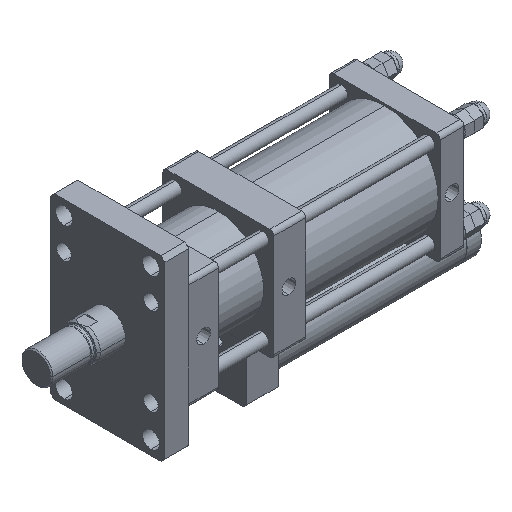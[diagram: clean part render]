
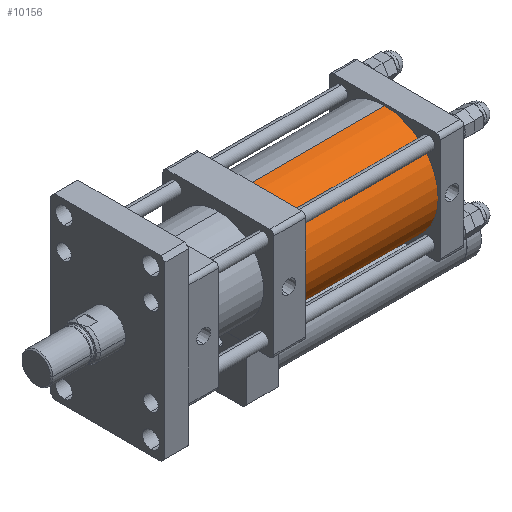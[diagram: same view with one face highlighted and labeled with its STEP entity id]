
A CAD part, isometric view. The second image highlights one B-rep face of the part: STEP entity #10156.
In plain terms, the highlighted cylindrical face has radius 67.5 mm (diameter 135 mm), a partial arc.
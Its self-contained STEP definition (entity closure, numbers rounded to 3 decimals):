
#452 = CYLINDRICAL_SURFACE ( 'NONE', #9374, 67.5 ) ;
#463 = VECTOR ( 'NONE', #6198, 1000. ) ;
#786 = CARTESIAN_POINT ( 'NONE',  ( 440., 0., 67.5 ) ) ;
#1277 = DIRECTION ( 'NONE',  ( 1., 0., 0. ) ) ;
#1511 = VECTOR ( 'NONE', #8650, 1000. ) ;
#1571 = ORIENTED_EDGE ( 'NONE', *, *, #2304, .T. ) ;
#2241 = VERTEX_POINT ( 'NONE', #10522 ) ;
#2289 = CARTESIAN_POINT ( 'NONE',  ( 440., 0., -67.5 ) ) ;
#2304 = EDGE_CURVE ( 'NONE', #2241, #2496, #6752, .T. ) ;
#2496 = VERTEX_POINT ( 'NONE', #4125 ) ;
#3341 = ORIENTED_EDGE ( 'NONE', *, *, #9143, .F. ) ;
#3656 = CARTESIAN_POINT ( 'NONE',  ( 440., 0., -67.5 ) ) ;
#4125 = CARTESIAN_POINT ( 'NONE',  ( 270., 0., 67.5 ) ) ;
#4167 = DIRECTION ( 'NONE',  ( 1., 0., 0. ) ) ;
#4205 = AXIS2_PLACEMENT_3D ( 'NONE', #7158, #1277, #8140 ) ;
#4337 = CARTESIAN_POINT ( 'NONE',  ( 440., 0., 0. ) ) ;
#5278 = DIRECTION ( 'NONE',  ( -1., 0., 0. ) ) ;
#5694 = FACE_OUTER_BOUND ( 'NONE', #6895, .T. ) ;
#6198 = DIRECTION ( 'NONE',  ( -1., 0., 0. ) ) ;
#6752 = LINE ( 'NONE', #786, #1511 ) ;
#6895 = EDGE_LOOP ( 'NONE', ( #12683, #3341, #1571, #11615 ) ) ;
#7042 = CIRCLE ( 'NONE', #8341, 67.5 ) ;
#7158 = CARTESIAN_POINT ( 'NONE',  ( 440., 0., 0. ) ) ;
#8140 = DIRECTION ( 'NONE',  ( 0., 0., -1. ) ) ;
#8302 = LINE ( 'NONE', #2289, #463 ) ;
#8341 = AXIS2_PLACEMENT_3D ( 'NONE', #10085, #4167, #11069 ) ;
#8650 = DIRECTION ( 'NONE',  ( -1., 0., 0. ) ) ;
#9143 = EDGE_CURVE ( 'NONE', #2241, #12555, #9579, .T. ) ;
#9374 = AXIS2_PLACEMENT_3D ( 'NONE', #4337, #5278, #11235 ) ;
#9579 = CIRCLE ( 'NONE', #4205, 67.5 ) ;
#10085 = CARTESIAN_POINT ( 'NONE',  ( 270., 0., 0. ) ) ;
#10156 = ADVANCED_FACE ( 'NONE', ( #5694 ), #452, .T. ) ;
#10522 = CARTESIAN_POINT ( 'NONE',  ( 440., 0., 67.5 ) ) ;
#11069 = DIRECTION ( 'NONE',  ( 0., 0., -1. ) ) ;
#11077 = VERTEX_POINT ( 'NONE', #11296 ) ;
#11235 = DIRECTION ( 'NONE',  ( 0., 0., 1. ) ) ;
#11296 = CARTESIAN_POINT ( 'NONE',  ( 270., 0., -67.5 ) ) ;
#11450 = EDGE_CURVE ( 'NONE', #2496, #11077, #7042, .T. ) ;
#11615 = ORIENTED_EDGE ( 'NONE', *, *, #11450, .T. ) ;
#12438 = EDGE_CURVE ( 'NONE', #12555, #11077, #8302, .T. ) ;
#12555 = VERTEX_POINT ( 'NONE', #3656 ) ;
#12683 = ORIENTED_EDGE ( 'NONE', *, *, #12438, .F. ) ;
